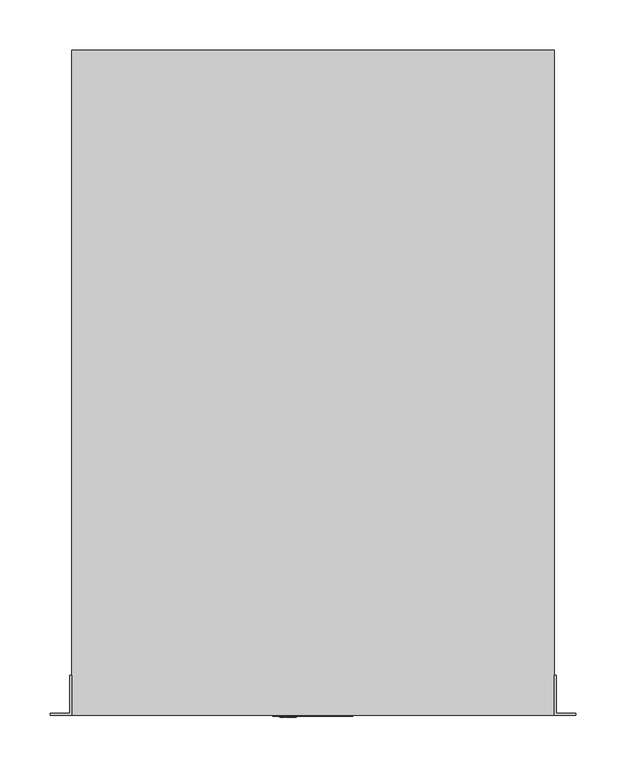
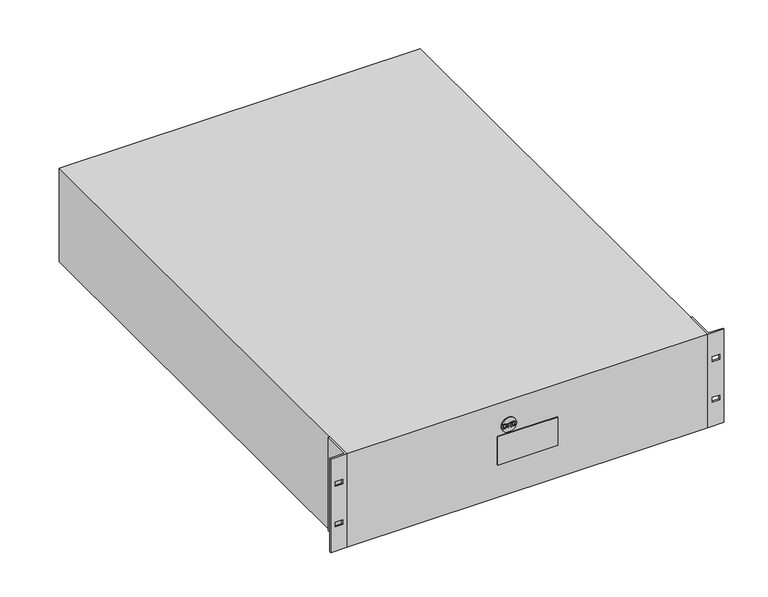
"""IFC4 building model written with IfcOpenShell, lengths in millimetres: proxy geometry, НВО_КНС_ОнлайнИБПSmallConvert_DKC : SMALLC2A10I."""

from ifc_helpers import new_model, si_unit, point, frame, frame_2d, origin, origin_with_axes, place, context, project, spatial, polyline, circle_curve, trimmed, segment, composite_curve, outline, extrude, faceted_brep, source, transform, mapped, element, save


def electrical_equipment_f8392c63(model_context):
    return source(origin(), model_context, "Body", "SolidModel", [
        extrude(outline(polyline([(95.0, -33.1463789), (95.0, -30.967046), (95.103007, -29.9980448), (95.9520786, -28.7273804), (96.829845, -28.3153525), (98.0460629, -28.154956), (99.4793312, -28.391872), (100.5094008, -29.1055631), (100.9405585, -29.9914229), (101.0273786, -31.0671099), (101.0273786, -33.1463789), (95.0, -33.1463789)]), holes=[polyline([(95.7534223, -32.3929566), (100.2739563, -32.3929566), (100.2739563, -31.0803536), (100.153291, -30.0120243), (99.4852173, -29.2299072), (98.0578351, -28.9083783), (96.9181367, -29.0724537), (95.8623154, -30.0900153), (95.7534223, -31.0597522), (95.7534223, -32.3929566)])]), frame((0.0, -2.0, 0.0), z_axis=(0.0, 1.0, 0.0), x_axis=(0.0, 0.0, 1.0)), (0.0, 0.0, 1.0), 6.0),
        extrude(outline(polyline([(95.0, -26.7422891), (97.0719114, -26.365578), (98.0401768, -25.3502237), (95.0, -23.0487539), (95.0, -22.1275774), (98.5493255, -24.816059), (101.0273786, -22.2217552), (101.0273786, -23.2753692), (98.076965, -26.365578), (101.0273786, -27.1190003), (95.0, -26.7422891)])), frame((0.0, -2.0, 0.0), z_axis=(0.0, 1.0, 0.0), x_axis=(0.0, 0.0, 1.0)), (0.0, 0.0, 1.0), 6.0),
        extrude(outline(polyline([(97.1425447, -17.3245101), (96.0330126, -17.963889), (95.6592445, -19.1168311), (95.9336845, -20.1564657), (96.7628905, -20.8642706), (98.0607782, -21.0916217), (99.180611, -20.8995873), (100.0458694, -20.2337209), (100.3681341, -19.055027), (100.0775073, -18.0367296), (99.3307068, -16.6652655), (100.652139, -17.5165445), (101.1215564, -19.0255964), (100.7588248, -20.4735799), (99.6971173, -21.4881985), (98.0593067, -21.845044), (96.4479835, -21.5294013), (95.3016632, -20.6096963), (94.9058222, -19.0417832), (95.4289504, -17.4643052), (97.1425447, -17.3245101)])), frame((0.0, -2.0, 0.0), z_axis=(0.0, 1.0, 0.0), x_axis=(0.0, 0.0, 1.0)), (0.0, 0.0, 1.0), 6.0),
        extrude(outline(composite_curve([segment(trimmed(circle_curve(frame_2d((98.0, -25.0)), 10.0), [point((98.0, -35.0))], [point((98.0, -15.0))], False, "CARTESIAN"), True, "CONTINUOUS"), segment(trimmed(circle_curve(frame_2d((98.0, -25.0)), 10.0), [point((98.0, -15.0))], [point((98.0, -35.0))], False, "CARTESIAN"), True, "CONTINUOUS")], self_intersect=False)), frame((0.0, -1.0, 0.0), z_axis=(0.0, 1.0, 0.0), x_axis=(0.0, 0.0, 1.0)), (0.0, 0.0, 1.0), 10.0),
        faceted_brep([(241.0, 0.0, 132.0), (262.5, 0.0, 132.0), (262.5, 2.0, 132.0), (243.0, 2.0, 132.0), (243.0, 40.0, 132.0), (241.0, 40.0, 132.0), (241.0, 0.0, 0.0), (241.0, 40.0, 0.0), (243.0, 40.0, 0.0), (243.0, 2.0, 0.0), (262.5, 2.0, 0.0), (262.5, 0.0, 0.0), (246.75, 0.0, 91.35), (246.75, 0.0, 97.85), (256.75, 0.0, 97.85), (256.75, 0.0, 91.35), (256.75, 0.0, 34.125), (246.75, 0.0, 34.125), (246.75, 0.0, 40.625), (256.75, 0.0, 40.625), (246.75, 2.0, 97.85), (246.75, 2.0, 91.35), (256.75, 2.0, 91.35), (256.75, 2.0, 97.85), (246.75, 2.0, 34.125), (256.75, 2.0, 34.125), (256.75, 2.0, 40.625), (246.75, 2.0, 40.625)], [[[0, 1, 2, 3, 4, 5]], [[6, 7, 8, 9, 10, 11]], [[1, 0, 6, 11], [12, 13, 14, 15], [16, 17, 18, 19]], [[2, 1, 11, 10]], [[3, 2, 10, 9], [20, 21, 22, 23], [24, 25, 26, 27]], [[4, 3, 9, 8]], [[5, 4, 8, 7]], [[0, 5, 7, 6]], [[12, 21, 20, 13]], [[21, 12, 15, 22]], [[22, 15, 14, 23]], [[13, 20, 23, 14]], [[16, 25, 24, 17]], [[25, 16, 19, 26]], [[26, 19, 18, 27]], [[17, 24, 27, 18]]]),
        faceted_brep([(-243.0, 2.0, 132.0), (-262.5, 2.0, 132.0), (-262.5, 0.0, 132.0), (-241.0, 0.0, 132.0), (-241.0, 40.0, 132.0), (-243.0, 40.0, 132.0), (-243.0, 2.0, 0.0), (-243.0, 40.0, 0.0), (-241.0, 40.0, 0.0), (-241.0, 0.0, 0.0), (-262.5, 0.0, 0.0), (-262.5, 2.0, 0.0), (-246.75, 2.0, 97.85), (-256.75, 2.0, 97.85), (-256.75, 2.0, 91.35), (-246.75, 2.0, 91.35), (-246.75, 2.0, 34.125), (-246.75, 2.0, 40.625), (-256.75, 2.0, 40.625), (-256.75, 2.0, 34.125), (-256.75, 0.0, 97.85), (-246.75, 0.0, 97.85), (-246.75, 0.0, 91.35), (-256.75, 0.0, 91.35), (-246.75, 0.0, 40.625), (-246.75, 0.0, 34.125), (-256.75, 0.0, 34.125), (-256.75, 0.0, 40.625)], [[[0, 1, 2, 3, 4, 5]], [[6, 7, 8, 9, 10, 11]], [[1, 0, 6, 11], [12, 13, 14, 15], [16, 17, 18, 19]], [[2, 1, 11, 10]], [[3, 2, 10, 9], [20, 21, 22, 23], [24, 25, 26, 27]], [[4, 3, 9, 8]], [[5, 4, 8, 7]], [[0, 5, 7, 6]], [[20, 13, 12, 21]], [[13, 20, 23, 14]], [[14, 23, 22, 15]], [[21, 12, 15, 22]], [[24, 17, 16, 25]], [[17, 24, 27, 18]], [[18, 27, 26, 19]], [[25, 16, 19, 26]]]),
        extrude(outline(polyline([(40.0, -1.0), (-40.0, -1.0), (-40.0, 0.0), (40.0, 0.0), (40.0, -1.0)])), frame((0.0, 0.0, 46.0), z_axis=(0.0, 0.0, 1.0), x_axis=(1.0, 0.0, 0.0)), (0.0, 0.0, 1.0), 40.0),
        extrude(outline(polyline([(241.0, 0.0), (-241.0, 0.0), (-241.0, 665.0), (241.0, 665.0), (241.0, 0.0)])), origin_with_axes(), (0.0, 0.0, 1.0), 132.0),
    ])


if __name__ == "__main__":
    model = new_model("IFC4")
    model_context = context("Model", 3, world=origin())
    ifc_project = project(units=[si_unit("LENGTHUNIT", "METRE", prefix="MILLI")], contexts=[model_context])
    site = spatial("IfcSite", under=ifc_project)
    building = spatial("IfcBuilding", under=site)
    placement = place(None, origin())
    electrical_equipment_shape = electrical_equipment_f8392c63(model_context)
    element("IfcBuildingElementProxy", 1, Name="НВО_КНС_ОнлайнИБПSmallConvert_DKC : SMALLC2A10I", ObjectType="НВО_КНС_ОнлайнИБПSmallConvert_DKC : SMALLC2A10I", at=placement, inside=building, context=model_context, shape_type="MappedRepresentation", body=[
        mapped(electrical_equipment_shape, transform((0.0, 0.0, 0.0), x_axis=(1.0, 0.0, 0.0), y_axis=(0.0, 1.0, 0.0), z_axis=(0.0, 0.0, 1.0))),
    ])
    save(model, "model.ifc")
